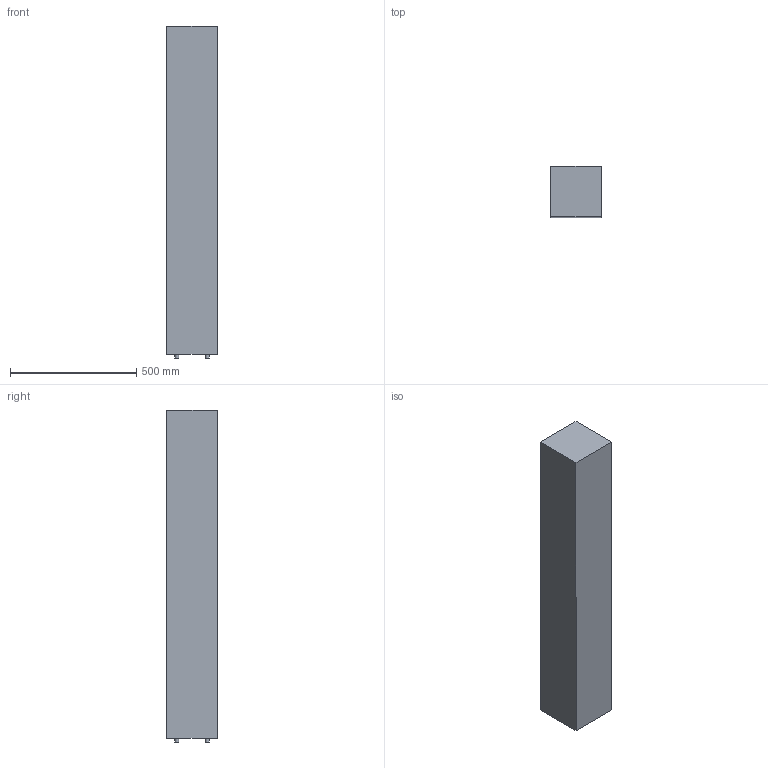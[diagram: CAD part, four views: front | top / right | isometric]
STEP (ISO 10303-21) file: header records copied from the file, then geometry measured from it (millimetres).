
FILE_DESCRIPTION(/* description */ (''),/* implementation_level */ '2;1');
FILE_NAME(/* name */ 'C:/Users/LukasGröber/GMS Cloud/Groeber Mannheim Lichtwerke - Dokumente/Marketing/Produkte/3D Daten/Lichtsäule Eifel im Herbst/Lichtsäule Eifle im Herbst 130.step',/* time_stamp */ '2022-07-06T16:12:26+02:00',/* author */ (''),/* organization */ (''),/* preprocessor_version */ 'ST-DEVELOPER v19',/* originating_system */ 'Autodesk Translation Framework v11.7.0.108',/* authorisation */ '');
FILE_SCHEMA (('AUTOMOTIVE_DESIGN { 1 0 10303 214 3 1 1 }'));
Length unit declared in the file: millimetre
Products named in the file (1): Lichtsäule Eifle im Herbst 130
Bounding box: 200 x 200 x 1315 mm (x, y, z)
Volume: 52010602.9 mm3; surface area: 1122827.4 mm2
Topology: 1 solids, 1 shells, 14 faces, 24 edges, 16 vertices
Faces by surface type: plane 10, cylinder 4
Full cylindrical faces by diameter (mm): 15 x4
Entity records: 392 total; most frequent: DIRECTION 62, CARTESIAN_POINT 55, ORIENTED_EDGE 48, EDGE_CURVE 24, AXIS2_PLACEMENT_3D 23, EDGE_LOOP 18, LINE 16, VECTOR 16
